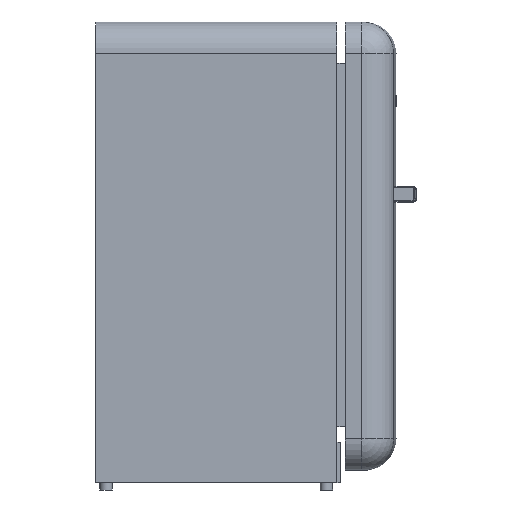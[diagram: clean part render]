
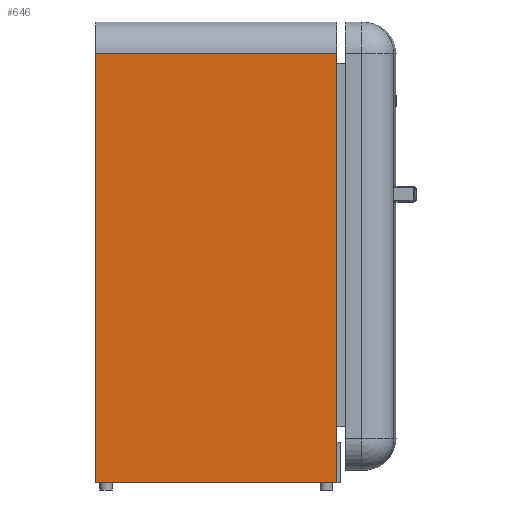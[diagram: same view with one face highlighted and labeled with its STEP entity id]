
A CAD part, left-side view. The second image highlights one B-rep face of the part: STEP entity #646.
In plain terms, the highlighted planar face has unit normal (-1, 0, 0).
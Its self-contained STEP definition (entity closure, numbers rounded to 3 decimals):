
#646=ADVANCED_FACE('',(#1090),#954,.T.);
#954=PLANE('',#5170);
#1090=FACE_OUTER_BOUND('',#1328,.T.);
#1328=EDGE_LOOP('',(#2565,#2566,#2567,#2568));
#1756=LINE('',#7415,#2110);
#1759=LINE('',#7431,#2113);
#1762=LINE('',#7441,#2116);
#1765=LINE('',#7446,#2119);
#2110=VECTOR('',#5862,1.);
#2113=VECTOR('',#5877,1.);
#2116=VECTOR('',#5886,1.);
#2119=VECTOR('',#5893,1.);
#2565=ORIENTED_EDGE('',*,*,#4311,.T.);
#2566=ORIENTED_EDGE('',*,*,#4314,.T.);
#2567=ORIENTED_EDGE('',*,*,#4298,.T.);
#2568=ORIENTED_EDGE('',*,*,#4306,.T.);
#3807=VERTEX_POINT('',#7414);
#3808=VERTEX_POINT('',#7416);
#3814=VERTEX_POINT('',#7430);
#3818=VERTEX_POINT('',#7440);
#4298=EDGE_CURVE('',#3808,#3807,#1756,.T.);
#4306=EDGE_CURVE('',#3807,#3814,#1759,.T.);
#4311=EDGE_CURVE('',#3814,#3818,#1762,.T.);
#4314=EDGE_CURVE('',#3818,#3808,#1765,.T.);
#5170=AXIS2_PLACEMENT_3D('',#7447,#5894,#5895);
#5862=DIRECTION('',(0.,0.,-1.));
#5877=DIRECTION('',(0.,-1.,0.));
#5886=DIRECTION('',(0.,0.,1.));
#5893=DIRECTION('',(0.,1.,0.));
#5894=DIRECTION('',(-1.,0.,0.));
#5895=DIRECTION('',(0.,-1.,0.));
#7414=CARTESIAN_POINT('',(175.382,496.124,48.714));
#7415=CARTESIAN_POINT('',(175.382,496.124,993.714));
#7416=CARTESIAN_POINT('',(175.382,496.124,928.714));
#7430=CARTESIAN_POINT('',(175.382,1.124,48.714));
#7431=CARTESIAN_POINT('',(175.382,496.124,48.714));
#7440=CARTESIAN_POINT('',(175.382,1.124,928.714));
#7441=CARTESIAN_POINT('',(175.382,1.124,48.714));
#7446=CARTESIAN_POINT('',(175.382,496.124,928.714));
#7447=CARTESIAN_POINT('',(175.382,496.124,48.714));
